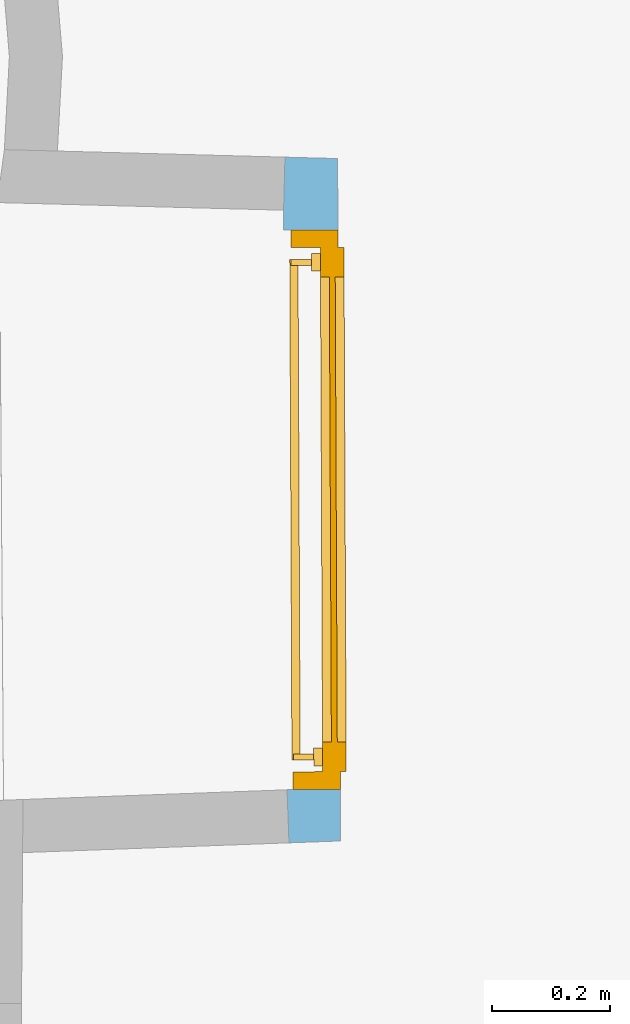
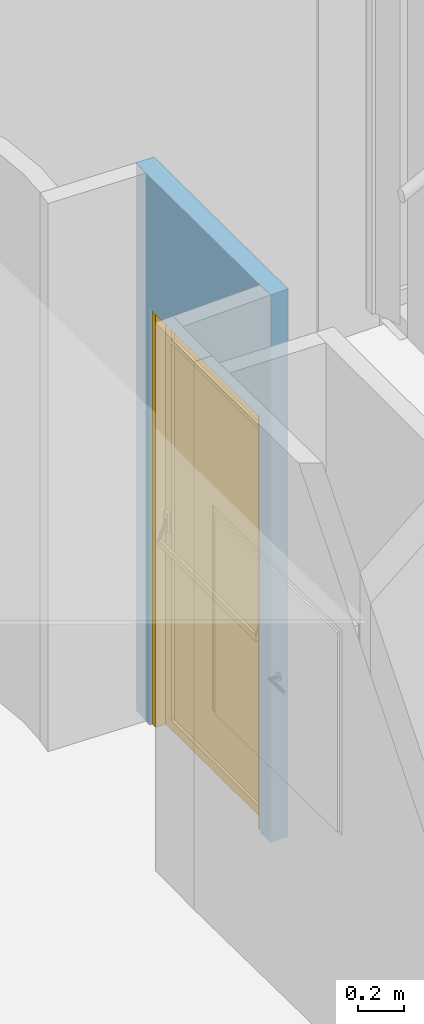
# One storey, part 96 of 133: 1 door, 1 opening, plus 1 element that does not belong to this part.
"""IFC2X3 building model written with IfcOpenShell, lengths in centimetres."""

from ifc_helpers import new_model, entity, si_unit, converted_unit, point, direction, frame, frame_2d, origin, origin_with_axes, place, context, subcontext, project, spatial, polyline, circle_curve, trimmed, segment, composite_curve, outline, extrude, faceted_brep, shape, source, transform, mapped, material, material_list, layer, layer_set, layer_usage, type_object, element, fill, save


model = new_model("IFC2X3")

# Units and contexts
model_context = context("Model", 3, precision=0.0001, world=origin(), true_north=direction((0.225632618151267, 0.974212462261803, 0.0)))
body_context = subcontext(model_context, "Body", "Model", "MODEL_VIEW")
footprint_context = subcontext(model_context, "FootPrint", "Model", "MODEL_VIEW")
profile_context = subcontext(model_context, "Profile", "Model", "MODEL_VIEW")
ifc_project = project(units=[si_unit("LENGTHUNIT", "METRE", prefix="CENTI"), si_unit("AREAUNIT", "SQUARE_METRE", prefix="CENTI"), si_unit("VOLUMEUNIT", "CUBIC_METRE", prefix="CENTI"), converted_unit("PLANEANGLEUNIT", "DEGREE", entity("IfcRatioMeasure", 0.0174532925), si_unit("PLANEANGLEUNIT", "RADIAN"), dimensions=[0, 0, 0, 0, 0, 0, 0])], contexts=[model_context])

# Site, building, storey
site_placement = place(None, origin_with_axes())
site = spatial("IfcSite", under=ifc_project, at=site_placement, Name="Default Site", CompositionType="ELEMENT")
building_placement = place(site_placement, origin_with_axes())
building = spatial("IfcBuilding", under=site, at=building_placement, Name="Default Building", CompositionType="ELEMENT")
storey_placement = place(building_placement, frame((0.0, 0.0, -291.400371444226), z_axis=(0.0, 0.0, 1.0), x_axis=(1.0, 0.0, 0.0)))
storey = spatial("IfcBuildingStorey", under=building, at=storey_placement, Name="Rez-de-Jardin", CompositionType="ELEMENT", Elevation=-291.400371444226)

# Wall, opening, door
ifc_material_1 = material(Name="<aucun>")
ifc_layer = layer(ifc_material_1, 9.0)
ifc_layer_set = layer_set([ifc_layer], Name="default")
ifc_layer_usage = layer_usage(ifc_layer_set, "AXIS2", "POSITIVE", -4.5)
wall_type = type_object("IfcWallType", Name="default 90", PredefinedType="NOTDEFINED", material=ifc_layer_set)
wall_placement = place(storey_placement, frame((882.115995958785, -521.164110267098, -1.94511073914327e-11), z_axis=(0.0, 0.0, 1.0), x_axis=(-0.00597783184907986, 0.99998213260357, 0.0)))
wall = element("IfcWallStandardCase", 1, at=wall_placement, inside=storey, type_object=wall_type, material=ifc_layer_usage, Name="Enveloppe 594285", context=body_context, shape_type="SweptSolid", body=[
    extrude(outline(polyline([(102.64015241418, 4.50000000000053), (4.36391653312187, 4.50000000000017), (-4.63184186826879, 4.22371973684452), (-4.3623673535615, -4.55044169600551), (111.34330851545, -4.72054005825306), (111.635339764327, 4.20571351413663), (102.64015241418, 4.50000000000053)])), frame((0.0, 0.0, 1.77635683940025e-13), z_axis=(0.0, 0.0, 1.0), x_axis=(1.0, 0.0, 0.0)), (0.0, 0.0, 1.0), 291.413221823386),
])
opening_placement = place(wall_placement, frame((4.39772920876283, -1.13686837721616e-13, 1.94515514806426e-11), z_axis=(0.0, 0.0, 1.0), x_axis=(-0.999998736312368, 0.00158977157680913, 0.0)))
cartesian_point_1 = entity("IfcCartesianPoint", [0.0, -1.77635683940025e-13, 221.404157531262])
cartesian_point_2 = entity("IfcCartesianPoint", [-94.8801034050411, -0.150837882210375, 221.404157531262])
cartesian_point_3 = entity("IfcCartesianPoint", [-94.8729494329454, -4.65083219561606])
opening = element("IfcOpeningElement", 2, at=opening_placement, cuts=wall, Name="4294966325_12", ObjectType="Opening", shapes=[
    shape(body_context, "Body", "SweptSolid", [extrude(outline(composite_curve([segment(polyline([(-0.00715397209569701, 221.404157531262), (-0.00715397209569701, -4.44089209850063e-14), (94.8729494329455, -4.44089209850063e-14), (94.8729494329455, 221.404157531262)]), True, "CONTINUOUS"), segment(trimmed(circle_curve(frame_2d((47.4328977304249, 117.040719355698), x_axis=(1.0, 0.0)), 114.63983348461), [point((94.8729494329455, 221.404157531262))], [point((-0.00715397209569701, 221.404157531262))], True, "CARTESIAN"), True, "CONTINUOUS")], self_intersect=False)), frame((0.0, -14.5, 0.0), z_axis=(0.0, 1.0, 0.0), x_axis=(-1.0, 0.0, 0.0)), (0.0, 0.0, 1.0), 29.2205400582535)]),
    shape(profile_context, "Profile", "GeometricCurveSet", [entity("IfcGeometricCurveSet", [entity("IfcCompositeCurve", [entity("IfcCompositeCurveSegment", "CONTINUOUS", True, entity("IfcPolyline", [cartesian_point_1, entity("IfcCartesianPoint", [0.0, -1.77635683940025e-13, -4.44089209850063e-14]), entity("IfcCartesianPoint", [-94.8801034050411, -0.150837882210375, -4.44089209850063e-14]), cartesian_point_2])), entity("IfcCompositeCurveSegment", "CONTINUOUS", True, entity("IfcTrimmedCurve", entity("IfcCircle", entity("IfcAxis2Placement3D", entity("IfcCartesianPoint", [-47.4400517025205, -0.0754189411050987, 117.040719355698]), entity("IfcDirection", [-0.00158977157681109, 0.999998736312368, -1.72789648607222e-14]), entity("IfcDirection", [0.999998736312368, 0.00158977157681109, 0.0])), 114.63983348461), [cartesian_point_2], [cartesian_point_1], True, "CARTESIAN"))], False)])]),
    shape(footprint_context, "FootPrint", "GeometricCurveSet", [entity("IfcGeometricCurveSet", [entity("IfcPolyline", [cartesian_point_3, entity("IfcCartesianPoint", [0.00715397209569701, -4.49999431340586]), entity("IfcCartesianPoint", [-0.00724527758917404, 4.55742733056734]), entity("IfcCartesianPoint", [-94.887588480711, 4.55742733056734]), cartesian_point_3])])]),
])
ifc_material_2 = material(Name="Blanc trafic")
ifc_material_3 = material(Name="Aluminium mat")
ifc_material_list = material_list([ifc_material_2, ifc_material_3])
door_style = type_object("IfcDoorStyle", Name="Porte de Secours_1VB[1P plein]_IMP arc", ConstructionType="NOTDEFINED", OperationType="NOTDEFINED", ParameterTakesPrecedence=False, Sizeable=False, material=ifc_material_list)
shared_shape = source(origin_with_axes(), body_context, "Body", "Brep", [
    faceted_brep([(-47.4401116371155, 4.44089209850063e-14, 3.99999991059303), (-47.4401116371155, 4.44089209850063e-14, -3.99999991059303), (-44.4401115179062, 4.44089209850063e-14, -3.99999991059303), (-44.4401115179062, 4.44089209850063e-14, 3.99999991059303), (-44.4401115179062, 219.370293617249, -3.99999991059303), (-44.4401115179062, 219.370293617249, 3.99999991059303), (-47.4401116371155, 221.404147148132, -3.99999991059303), (-47.4401116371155, 221.404147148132, 3.99999991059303), (-36.3687425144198, 222.586989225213, -3.99999991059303), (-36.3687425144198, 222.586989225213, 3.99999991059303), (-37.3471766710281, 225.426506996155, -3.99999991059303), (-36.3687425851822, 222.586989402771, -3.99999991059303), (-37.3471744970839, 225.426501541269, 3.99999991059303), (-37.3471744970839, 225.426501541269, -3.99999991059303), (-36.3687425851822, 222.586989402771, 3.99999991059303), (-37.3471766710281, 225.426506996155, 3.99999991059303), (-26.2135551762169, 225.555926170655, -3.99999991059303), (-26.2135551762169, 225.555926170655, 3.99999991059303), (-26.9187808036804, 228.475332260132, -3.99999991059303), (-26.2135535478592, 225.555920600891, -3.99999991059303), (-26.9187769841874, 228.475319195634, 3.99999991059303), (-26.9187769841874, 228.475319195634, -3.99999991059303), (-26.2135535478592, 225.555920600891, 3.99999991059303), (-26.9187808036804, 228.475332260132, 3.99999991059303), (-15.8229118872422, 227.550152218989, -3.99999991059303), (-15.8229118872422, 227.550152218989, 3.99999991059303), (-16.2485972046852, 230.523204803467, -3.99999991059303), (-15.8229112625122, 227.550148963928, -3.99999991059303), (-16.2485991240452, 230.523214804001, 3.99999991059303), (-16.2485991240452, 230.523214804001, -3.99999991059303), (-15.8229112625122, 227.550148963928, 3.99999991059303), (-16.2485972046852, 230.523204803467, 3.99999991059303), (-5.29014188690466, 228.551763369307, -3.99999991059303), (-5.29014188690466, 228.551763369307, 3.99999991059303), (-5.43246418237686, 231.551766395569, -3.99999991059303), (-5.29014244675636, 228.551769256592, -3.99999991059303), (-5.43246411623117, 231.551765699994, 3.99999991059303), (-5.43246411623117, 231.551765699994, -3.99999991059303), (-5.29014244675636, 228.551769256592, 3.99999991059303), (-5.43246418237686, 231.551766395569, 3.99999991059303), (5.29014244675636, 228.551769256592, -3.99999991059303), (5.29014244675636, 228.551769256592, 3.99999991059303), (5.43246418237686, 231.551766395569, -3.99999991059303), (5.43246418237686, 231.551766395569, 3.99999991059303), (15.8229118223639, 227.550154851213, -3.99999991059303), (15.8229118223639, 227.550154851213, 3.99999991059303), (16.2485972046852, 230.523204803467, -3.99999991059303), (15.8229112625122, 227.550148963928, -3.99999991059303), (16.2485972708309, 230.523205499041, 3.99999991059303), (16.2485972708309, 230.523205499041, -3.99999991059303), (15.8229112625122, 227.550148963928, 3.99999991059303), (16.2485972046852, 230.523204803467, 3.99999991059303), (26.2135529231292, 225.55591734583, -3.99999991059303), (26.2135529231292, 225.55591734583, 3.99999991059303), (26.9187808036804, 228.475332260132, -3.99999991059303), (26.2135535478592, 225.555920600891, -3.99999991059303), (26.9187788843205, 228.475322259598, 3.99999991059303), (26.9187788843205, 228.475322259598, -3.99999991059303), (26.2135535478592, 225.555920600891, 3.99999991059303), (26.9187808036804, 228.475332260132, 3.99999991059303), (36.3687409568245, 222.586983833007, -3.99999991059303), (36.3687409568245, 222.586983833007, 3.99999991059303), (37.3471766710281, 225.426506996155, -3.99999991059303), (36.3687425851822, 222.586989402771, -3.99999991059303), (37.3471804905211, 225.426520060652, 3.99999991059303), (37.3471804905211, 225.426520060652, -3.99999991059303), (36.3687425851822, 222.586989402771, 3.99999991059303), (37.3471766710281, 225.426506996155, 3.99999991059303), (44.4401115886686, 219.370293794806, -3.99999991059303), (44.4401115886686, 219.370293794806, 3.99999991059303), (47.4401116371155, 221.404147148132, -3.99999991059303), (44.4401115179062, 219.370293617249, -3.99999991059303), (47.4401138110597, 221.404152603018, 3.99999991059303), (47.4401138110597, 221.404152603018, -3.99999991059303), (44.4401115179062, 219.370293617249, 3.99999991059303), (47.4401116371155, 221.404147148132, 3.99999991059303), (44.4401115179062, 4.44089209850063e-14, 3.99999991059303), (44.4401115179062, 4.44089209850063e-14, -3.99999991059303), (47.4401116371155, 4.44089209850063e-14, -3.99999991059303), (47.4401116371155, 4.44089209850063e-14, 3.99999991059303)], [[[0, 1, 2, 3]], [[3, 2, 4, 5]], [[2, 1, 6, 4]], [[1, 0, 7, 6]], [[0, 3, 5, 7]], [[5, 4, 8, 9]], [[4, 6, 10, 11]], [[6, 7, 12, 13]], [[7, 5, 14, 15]], [[14, 11, 16, 17]], [[11, 10, 18, 19]], [[10, 15, 20, 21]], [[15, 14, 22, 23]], [[22, 19, 24, 25]], [[19, 18, 26, 27]], [[18, 23, 28, 29]], [[23, 22, 30, 31]], [[30, 27, 32, 33]], [[27, 26, 34, 35]], [[26, 31, 36, 37]], [[31, 30, 38, 39]], [[38, 35, 40, 41]], [[35, 34, 42, 40]], [[34, 39, 43, 42]], [[39, 38, 41, 43]], [[41, 40, 44, 45]], [[40, 42, 46, 47]], [[42, 43, 48, 49]], [[43, 41, 50, 51]], [[50, 47, 52, 53]], [[47, 46, 54, 55]], [[46, 51, 56, 57]], [[51, 50, 58, 59]], [[58, 55, 60, 61]], [[55, 54, 62, 63]], [[54, 59, 64, 65]], [[59, 58, 66, 67]], [[66, 63, 68, 69]], [[63, 62, 70, 71]], [[62, 67, 72, 73]], [[67, 66, 74, 75]], [[76, 77, 78, 79]], [[74, 71, 77, 76]], [[71, 70, 78, 77]], [[70, 75, 79, 78]], [[75, 74, 76, 79]]]),
    faceted_brep([(39.4401103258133, 216.008257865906, 5.00000007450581), (39.4401103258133, 216.008257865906, 0.999999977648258), (39.4401103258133, 5.00000007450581, 0.999999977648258), (39.4401103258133, 5.00000007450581, 5.00000007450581), (44.4401115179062, 219.45424079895, 0.999999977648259), (44.4401115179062, 4.44089209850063e-14, 0.999999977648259), (44.4401115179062, 219.45424079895, 0.999999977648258), (44.4401115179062, 219.45424079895, 5.00000007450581), (44.4401115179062, 4.44089209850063e-14, 5.00000007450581), (44.4401115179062, 4.44089209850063e-14, 0.999999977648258), (39.4401103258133, 216.008257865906, 5.00000007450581), (39.4401103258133, 5.00000007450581, 5.00000007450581), (-39.4401103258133, 5.00000007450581, 0.999999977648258), (-39.4401103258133, 5.00000007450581, 5.00000007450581), (-44.4401115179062, 4.44089209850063e-14, 0.999999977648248), (-39.4401103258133, 5.00000007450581, 0.999999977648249), (-44.4401115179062, 4.44089209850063e-14, 5.00000007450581), (-44.4401115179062, 4.44089209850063e-14, 0.999999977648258), (-39.4401103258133, 5.00000007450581, 5.0000000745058), (-44.4401115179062, 4.44089209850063e-14, 5.0000000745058), (-39.4401103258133, 216.008257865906, 0.999999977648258), (-39.4401103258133, 216.008257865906, 5.00000007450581), (-44.4401115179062, 219.45424079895, 0.999999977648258), (-44.4401115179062, 219.45424079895, 5.00000007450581), (-33.384620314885, 218.314693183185, 0.999999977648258), (-33.384620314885, 218.314693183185, 5.00000007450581), (-34.9516153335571, 223.068237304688, 0.999999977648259), (-33.3846211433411, 218.314695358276, 0.999999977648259), (-34.9516198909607, 223.06824927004, 5.00000007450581), (-34.9516198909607, 223.06824927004, 0.999999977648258), (-33.3846211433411, 218.314695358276, 5.00000007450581), (-34.9516153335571, 223.068237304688, 5.00000007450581), (-33.3846211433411, 218.314695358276, 0.999999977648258), (-24.0453827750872, 220.928980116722, 0.999999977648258), (-24.0453827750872, 220.928980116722, 5.00000007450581), (-34.9516153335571, 223.068237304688, 0.999999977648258), (-25.1740157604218, 225.805234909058, 0.999999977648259), (-24.0453824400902, 220.928978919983, 0.999999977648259), (-25.1740145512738, 225.805230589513, 5.00000007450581), (-25.1740145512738, 225.805230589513, 0.999999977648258), (-24.0453824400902, 220.928978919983, 5.00000007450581), (-25.1740157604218, 225.805234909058, 5.00000007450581), (-24.0453824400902, 220.928978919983, 0.999999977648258), (-14.5072526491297, 222.683942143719, 0.999999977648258), (-14.5072526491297, 222.683942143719, 5.00000007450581), (-25.1740157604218, 225.805234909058, 0.999999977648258), (-15.1881858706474, 227.642583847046, 0.999999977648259), (-14.5072504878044, 222.683930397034, 0.999999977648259), (-15.1881838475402, 227.642572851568, 5.00000007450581), (-15.1881838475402, 227.642572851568, 0.999999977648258), (-14.5072504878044, 222.683930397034, 5.00000007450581), (-15.1881858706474, 227.642583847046, 5.00000007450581), (-14.5072504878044, 222.683930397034, 0.999999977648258), (-4.84912044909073, 223.565056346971, 0.999999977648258), (-4.84912044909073, 223.565056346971, 5.00000007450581), (-15.1881858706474, 227.642583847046, 0.999999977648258), (-5.07672652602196, 228.565073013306, 0.999999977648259), (-4.84912022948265, 223.565053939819, 0.999999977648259), (-5.07672604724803, 228.565067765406, 5.00000007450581), (-5.07672604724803, 228.565067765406, 0.999999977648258), (-4.84912022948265, 223.565053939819, 5.00000007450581), (-5.07672652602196, 228.565073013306, 5.00000007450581), (-4.84912022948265, 223.565053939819, 0.999999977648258), (4.84912022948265, 223.565053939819, 0.999999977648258), (4.84912022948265, 223.565053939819, 5.00000007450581), (-5.07672652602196, 228.565073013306, 0.999999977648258), (5.07672652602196, 228.565073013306, 0.999999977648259), (4.84912022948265, 223.565053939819, 0.99999997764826), (5.07672652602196, 228.565073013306, 5.00000007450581), (5.07672652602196, 228.565073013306, 0.999999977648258), (14.5072502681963, 222.683927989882, 0.999999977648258), (14.5072502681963, 222.683927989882, 5.00000007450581), (15.1881858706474, 227.642583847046, 0.99999997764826), (14.5072504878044, 222.683930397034, 0.999999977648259), (15.1881863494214, 227.642589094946, 5.00000007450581), (15.1881863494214, 227.642589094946, 0.999999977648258), (14.5072504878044, 222.683930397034, 5.00000007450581), (15.1881858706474, 227.642583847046, 5.00000007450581), (14.5072504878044, 222.683930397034, 0.999999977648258), (24.0453802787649, 220.928967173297, 0.999999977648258), (24.0453802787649, 220.928967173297, 5.00000007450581), (15.1881858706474, 227.642583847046, 0.999999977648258), (25.1740157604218, 225.805234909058, 0.99999997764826), (24.0453824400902, 220.928978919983, 0.999999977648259), (25.174017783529, 225.805245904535, 5.00000007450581), (25.174017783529, 225.805245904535, 0.999999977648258), (24.0453824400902, 220.928978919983, 5.00000007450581), (25.1740157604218, 225.805234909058, 5.00000007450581), (24.0453824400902, 220.928978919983, 0.999999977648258), (33.384620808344, 218.314694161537, 0.999999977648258), (33.384620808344, 218.314694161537, 5.00000007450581), (25.1740157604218, 225.805234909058, 0.999999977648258), (34.9516153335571, 223.068237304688, 0.99999997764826), (33.3846211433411, 218.314695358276, 0.999999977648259), (34.951616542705, 223.068241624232, 5.00000007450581), (34.951616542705, 223.068241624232, 0.999999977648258), (33.3846211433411, 218.314695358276, 5.00000007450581), (34.9516153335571, 223.068237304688, 5.00000007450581), (33.3846211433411, 218.314695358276, 0.999999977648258), (39.4401111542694, 216.008260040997, 0.999999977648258), (39.4401111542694, 216.008260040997, 5.00000007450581), (34.9516153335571, 223.068237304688, 0.999999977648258), (39.4401103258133, 216.008257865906, 0.999999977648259), (44.4401069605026, 219.454228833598, 5.00000007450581), (44.4401069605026, 219.454228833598, 0.999999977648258)], [[[0, 1, 2, 3]], [[1, 4, 5, 2]], [[6, 7, 8, 9]], [[7, 10, 11, 8]], [[3, 2, 12, 13]], [[2, 5, 14, 15]], [[9, 8, 16, 17]], [[8, 11, 18, 19]], [[13, 12, 20, 21]], [[12, 17, 22, 20]], [[17, 16, 23, 22]], [[16, 13, 21, 23]], [[21, 20, 24, 25]], [[20, 22, 26, 27]], [[22, 23, 28, 29]], [[23, 21, 30, 31]], [[30, 32, 33, 34]], [[32, 35, 36, 37]], [[35, 31, 38, 39]], [[31, 30, 40, 41]], [[40, 42, 43, 44]], [[42, 45, 46, 47]], [[45, 41, 48, 49]], [[41, 40, 50, 51]], [[50, 52, 53, 54]], [[52, 55, 56, 57]], [[55, 51, 58, 59]], [[51, 50, 60, 61]], [[60, 62, 63, 64]], [[62, 65, 66, 67]], [[65, 61, 68, 69]], [[61, 60, 64, 68]], [[64, 63, 70, 71]], [[63, 69, 72, 73]], [[69, 68, 74, 75]], [[68, 64, 76, 77]], [[76, 78, 79, 80]], [[78, 81, 82, 83]], [[81, 77, 84, 85]], [[77, 76, 86, 87]], [[86, 88, 89, 90]], [[88, 91, 92, 93]], [[91, 87, 94, 95]], [[87, 86, 96, 97]], [[96, 98, 99, 100]], [[98, 101, 4, 102]], [[101, 97, 103, 104]], [[97, 96, 0, 7]]]),
    faceted_brep([(-43.4401124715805, 114.727115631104, 0.999999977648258), (-43.4401124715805, 104.727125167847, 0.999999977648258), (-40.4401123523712, 104.727125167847, 0.999999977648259), (-40.4401123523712, 114.727115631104, 0.999999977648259), (-40.4401123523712, 114.727115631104, -0.499999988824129), (-40.4401123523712, 104.727125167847, -0.499999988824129), (-43.4401124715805, 104.727125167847, -0.499999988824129), (-43.4401124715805, 114.727115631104, -0.499999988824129), (-40.4401123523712, 114.727115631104, 0.999999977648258), (-40.4401123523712, 104.727125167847, 0.999999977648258)], [[[0, 1, 2, 3]], [[4, 5, 6, 7]], [[8, 9, 5, 4]], [[9, 1, 6, 5]], [[1, 0, 7, 6]], [[0, 8, 4, 7]]]),
    faceted_brep([(-42.4401104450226, 110.977125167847, -0.499999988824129), (-42.4401104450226, 108.477115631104, -0.499999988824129), (-41.4401113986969, 108.477115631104, -0.499999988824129), (-41.4401113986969, 110.977125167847, -0.499999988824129), (-41.4401113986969, 101.477122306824, -3.95454540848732), (-41.4401113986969, 101.477122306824, -3.045454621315), (-42.4401104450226, 101.477122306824, -3.045454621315), (-42.4401104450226, 101.477122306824, -3.95454540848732), (-42.4401104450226, 101.477121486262, -3.04545236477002), (-41.4401113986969, 101.477121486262, -3.04545236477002), (-41.4401113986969, 101.477122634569, -3.95454630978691), (-42.4401104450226, 101.477122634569, -3.95454630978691)], [[[0, 1, 2, 3]], [[4, 5, 6, 7]], [[3, 2, 5, 4]], [[2, 1, 8, 9]], [[1, 0, 7, 6]], [[0, 3, 10, 11]]]),
    faceted_brep([(40.4401123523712, 114.727115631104, 0.999999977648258), (40.4401123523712, 104.727125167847, 0.999999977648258), (43.4401124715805, 104.727125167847, 0.999999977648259), (43.4401124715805, 114.727115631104, 0.999999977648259), (43.4401124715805, 114.727115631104, -0.499999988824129), (43.4401124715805, 104.727125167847, -0.499999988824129), (40.4401123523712, 104.727125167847, -0.499999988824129), (40.4401123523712, 114.727115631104, -0.499999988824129), (43.4401124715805, 114.727115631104, 0.999999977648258), (43.4401124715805, 104.727125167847, 0.999999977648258)], [[[0, 1, 2, 3]], [[4, 5, 6, 7]], [[8, 9, 5, 4]], [[9, 1, 6, 5]], [[1, 0, 7, 6]], [[0, 8, 4, 7]]]),
    faceted_brep([(41.4401113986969, 110.977125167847, -0.499999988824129), (41.4401113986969, 108.477115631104, -0.499999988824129), (42.4401104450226, 108.477115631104, -0.499999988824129), (42.4401104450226, 110.977125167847, -0.499999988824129), (42.4401104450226, 101.477122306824, -3.95454540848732), (42.4401104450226, 101.477122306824, -3.045454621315), (41.4401113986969, 101.477122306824, -3.045454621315), (41.4401113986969, 101.477122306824, -3.95454540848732), (41.4401113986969, 101.477121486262, -3.04545236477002), (42.4401104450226, 101.477121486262, -3.04545236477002), (42.4401104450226, 101.477122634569, -3.95454630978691), (41.4401113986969, 101.477122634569, -3.95454630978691)], [[[0, 1, 2, 3]], [[4, 5, 6, 7]], [[3, 2, 5, 4]], [[2, 1, 8, 9]], [[1, 0, 7, 6]], [[0, 3, 10, 11]]]),
    faceted_brep([(-42.4401104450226, 98.4771192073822, -2.80000008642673), (-42.4401104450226, 101.477122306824, -2.80000008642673), (-42.4401104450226, 101.477122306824, -4.19999994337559), (-42.4401104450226, 98.4771192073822, -4.19999994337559), (42.4401104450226, 98.4771192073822, -4.19999994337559), (42.4401104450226, 101.477122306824, -4.19999994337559), (42.4401104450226, 101.477122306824, -2.80000008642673), (42.4401104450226, 98.4771192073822, -2.80000008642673), (42.4401104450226, 101.477122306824, -4.19999994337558), (42.4401104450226, 98.4771192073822, -4.19999994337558), (42.4401104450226, 98.4771192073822, -2.80000008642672), (42.4401104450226, 101.477122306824, -2.80000008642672)], [[[0, 1, 2, 3]], [[4, 5, 6, 7]], [[3, 2, 8, 9]], [[2, 1, 6, 5]], [[1, 0, 10, 11]], [[0, 3, 4, 7]]]),
    faceted_brep([(29.8936307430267, 219.404888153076, 3.50000001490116), (20.0792029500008, 221.773147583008, 3.50000001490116), (10.0847981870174, 223.202633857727, 3.50000001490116), (1.06736037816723e-14, 223.680543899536, 3.50000001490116), (-10.0847981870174, 223.202633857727, 3.50000001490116), (-20.0792029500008, 221.773147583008, 3.50000001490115), (-29.8936307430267, 219.404888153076, 3.50000001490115), (-39.4401103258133, 216.119122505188, 3.50000001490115), (-39.4401103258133, 207.429504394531, 3.50000001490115), (39.4401103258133, 207.429504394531, 3.50000001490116), (39.4401103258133, 216.119122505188, 3.50000001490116), (39.4401103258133, 216.119122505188, 2.5000000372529), (39.4401103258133, 207.429504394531, 2.5000000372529), (-39.4401103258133, 207.429504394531, 2.50000003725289), (-39.4401103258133, 216.119122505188, 2.50000003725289), (-29.8936307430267, 219.404888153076, 2.50000003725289), (-20.0792029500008, 221.773147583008, 2.5000000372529), (-10.0847981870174, 223.202633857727, 2.5000000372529), (1.07960688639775e-14, 223.680543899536, 2.5000000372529), (10.0847981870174, 223.202633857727, 2.5000000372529), (20.0792029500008, 221.773147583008, 2.5000000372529), (29.8936307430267, 219.404888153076, 2.5000000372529), (-39.4401103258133, 207.429504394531, 3.50000001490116), (-39.4401103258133, 207.429504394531, 2.5000000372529), (-39.4401103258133, 216.119122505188, 3.50000001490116), (-39.4401103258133, 216.119122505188, 2.5000000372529), (-29.8936307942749, 219.404888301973, 3.50000001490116), (-29.8936307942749, 219.404888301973, 2.5000000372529), (-29.8936307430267, 219.404888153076, 3.50000001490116), (-20.0791988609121, 221.773130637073, 3.50000001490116), (-20.0791988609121, 221.773130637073, 2.5000000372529), (-29.8936307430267, 219.404888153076, 2.5000000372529), (-10.0847986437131, 223.202637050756, 3.50000001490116), (-10.0847986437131, 223.202637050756, 2.5000000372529), (-6.80941530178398e-07, 223.680558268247, 3.50000001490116), (-6.80941530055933e-07, 223.680558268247, 2.5000000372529), (10.0847975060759, 223.202619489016, 3.50000001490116), (10.0847975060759, 223.202619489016, 2.5000000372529), (20.0792024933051, 221.773144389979, 3.50000001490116), (20.0792024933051, 221.773144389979, 2.5000000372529), (29.8936348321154, 219.404905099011, 3.50000001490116), (29.8936348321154, 219.404905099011, 2.5000000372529), (39.4401102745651, 216.119122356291, 3.50000001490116), (39.4401102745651, 216.119122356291, 2.5000000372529)], [[[0, 1, 2, 3, 4, 5, 6, 7, 8, 9, 10]], [[11, 12, 13, 14, 15, 16, 17, 18, 19, 20, 21]], [[10, 9, 12, 11]], [[9, 22, 23, 12]], [[22, 24, 25, 23]], [[24, 26, 27, 25]], [[28, 29, 30, 31]], [[5, 32, 33, 16]], [[4, 34, 35, 17]], [[3, 36, 37, 18]], [[2, 38, 39, 19]], [[1, 40, 41, 20]], [[0, 42, 43, 21]]]),
    faceted_brep([(-39.4401103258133, 205.42950630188, 0.999999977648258), (-39.4401103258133, 205.42950630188, 5.00000007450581), (-39.4401103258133, 207.429504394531, 5.00000007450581), (-39.4401103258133, 207.429504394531, 0.999999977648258), (39.4401103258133, 207.429504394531, 0.999999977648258), (39.4401103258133, 207.429504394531, 5.00000007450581), (39.4401103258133, 205.42950630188, 5.00000007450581), (39.4401103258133, 205.42950630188, 0.999999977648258), (39.4401103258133, 205.42950630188, 5.00000007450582), (39.4401103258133, 207.429504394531, 5.00000007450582), (39.4401103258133, 207.429504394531, 0.999999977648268), (39.4401103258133, 205.42950630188, 0.999999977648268)], [[[0, 1, 2, 3]], [[4, 5, 6, 7]], [[3, 2, 5, 4]], [[2, 1, 8, 9]], [[1, 0, 7, 6]], [[0, 3, 10, 11]]]),
    faceted_brep([(-39.4401103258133, 205.42950630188, 3.50000001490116), (-39.4401103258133, 5.00000007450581, 3.50000001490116), (39.4401103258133, 5.00000007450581, 3.50000001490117), (39.4401103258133, 205.42950630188, 3.50000001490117), (39.4401103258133, 205.42950630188, 2.5000000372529), (39.4401103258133, 5.00000007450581, 2.5000000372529), (-39.4401103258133, 5.00000007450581, 2.50000003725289), (-39.4401103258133, 205.42950630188, 2.50000003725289), (39.4401103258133, 205.42950630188, 3.50000001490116), (39.4401103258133, 5.00000007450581, 3.50000001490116), (-39.4401103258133, 5.00000007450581, 2.5000000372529), (-39.4401103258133, 205.42950630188, 2.5000000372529)], [[[0, 1, 2, 3]], [[4, 5, 6, 7]], [[8, 9, 5, 4]], [[9, 1, 10, 5]], [[1, 0, 11, 10]], [[0, 8, 4, 11]]]),
])
door_placement = place(opening_placement, frame((-94.8811094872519, -3.44257266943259, -4.44089209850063e-16), z_axis=(0.0, 0.0, 1.0), x_axis=(1.0, 0.0, 0.0)))
door = element("IfcDoor", 3, at=door_placement, inside=storey, type_object=door_style, material=ifc_material_list, Name="Porte 74080", OverallHeight=231.680552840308, OverallWidth=94.8802233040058, context=body_context, shape_type="MappedRepresentation", body=[
    mapped(shared_shape, transform((47.4401116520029, 4.00000000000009, 4.44089209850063e-14), x_axis=(-1.0, 0.0, 0.0), y_axis=(0.0, 0.0, 1.0), z_axis=(0.0, 1.0, 0.0), scale=1.0, scale2=1.0, scale3=1.0, uniform=False)),
])
fill(opening, door)

save(model, "model.ifc")
